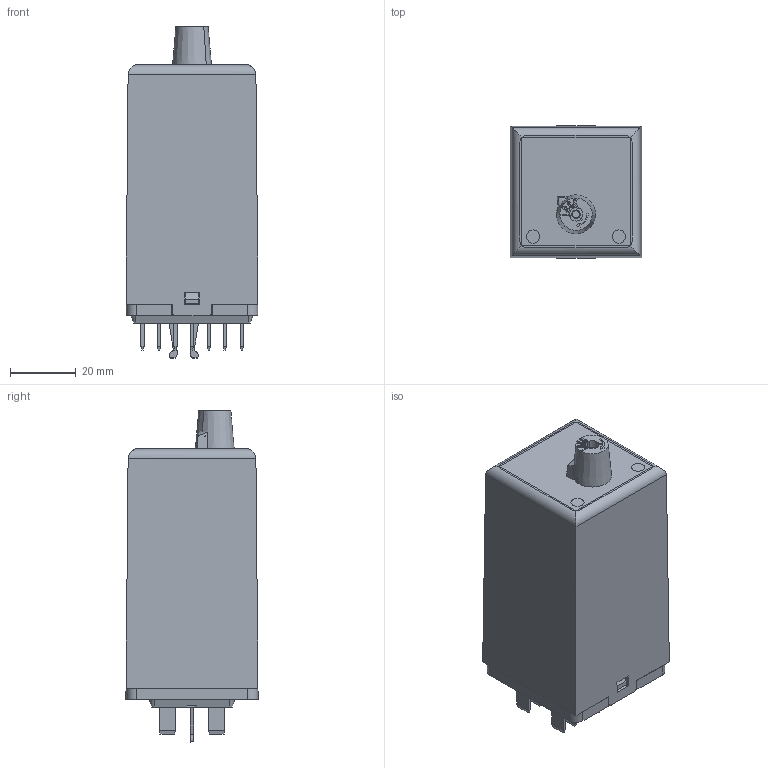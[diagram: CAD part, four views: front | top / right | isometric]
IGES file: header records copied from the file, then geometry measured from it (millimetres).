
Global section: file name: No Iges File Name specified; native system: Autodesk Inventor 2011; preprocessor: AutoDesk Inventor Iges Exporter R2011; author: oey; date: 20110308.142518; units: millimetre
Bounding box: 40 x 40.06 x 100.65 mm (x, y, z)
Volume: 32041.3 mm3; surface area: 38645 mm2
Topology: 1 solids, 3 shells, 1650 faces, 4944 edges, 3236 vertices
Faces by surface type: plane 717, bspline 558, revolution 174, cylinder 160, sphere 28, cone 9, torus 4
